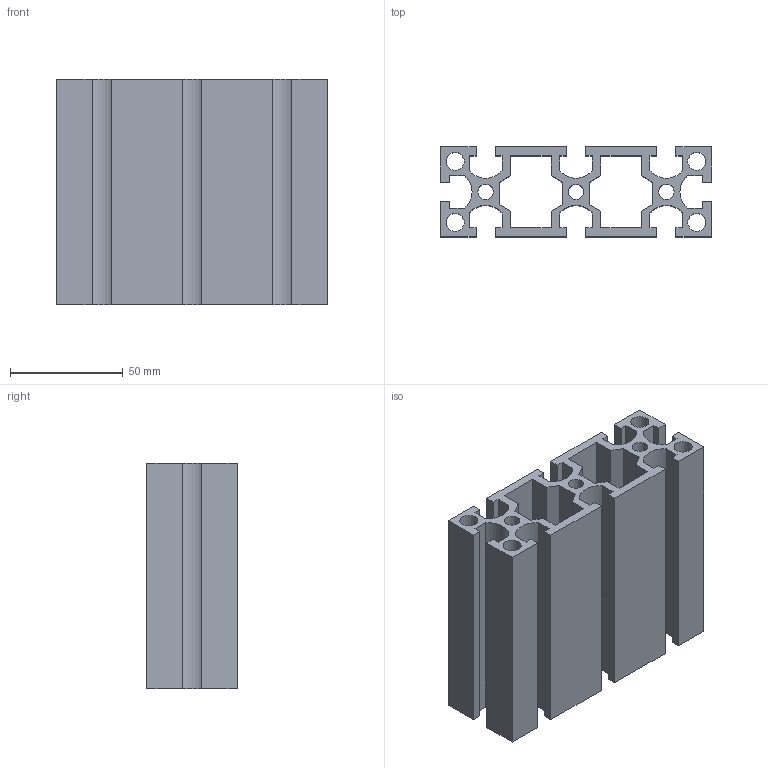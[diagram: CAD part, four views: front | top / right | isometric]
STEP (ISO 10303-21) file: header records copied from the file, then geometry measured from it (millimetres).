
FILE_DESCRIPTION(/* description */ ('Unknown'),/* implementation_level */ '2;1');
FILE_NAME(/* name */ 'NM40120',/* time_stamp */ '2026-08-31T11:39:15+08:00',/* author */ ('Unknown'),/* organization */ ('Unknown'),/* preprocessor_version */ 'ST-DEVELOPER v16.7',/* originating_system */ 'DEX',/* authorisation */ $);
FILE_SCHEMA (('AUTOMOTIVE_DESIGN {1 0 10303 214 3 1 1}'));
Length unit declared in the file: millimetre
Products named in the file (1): 40120
Bounding box: 120 x 40 x 100 mm (x, y, z)
Volume: 177219.2 mm3; surface area: 102637.9 mm2
Topology: 1 solids, 1 shells, 101 faces, 300 edges, 201 vertices
Faces by surface type: plane 86, cylinder 15
Full cylindrical faces by diameter (mm): 6.8 x3, 8 x4
Entity records: 3352 total; most frequent: CARTESIAN_POINT 590, ORIENTED_EDGE 580, DIRECTION 524, EDGE_CURVE 290, LINE 260, VECTOR 260, VERTEX_POINT 198, AXIS2_PLACEMENT_3D 132
